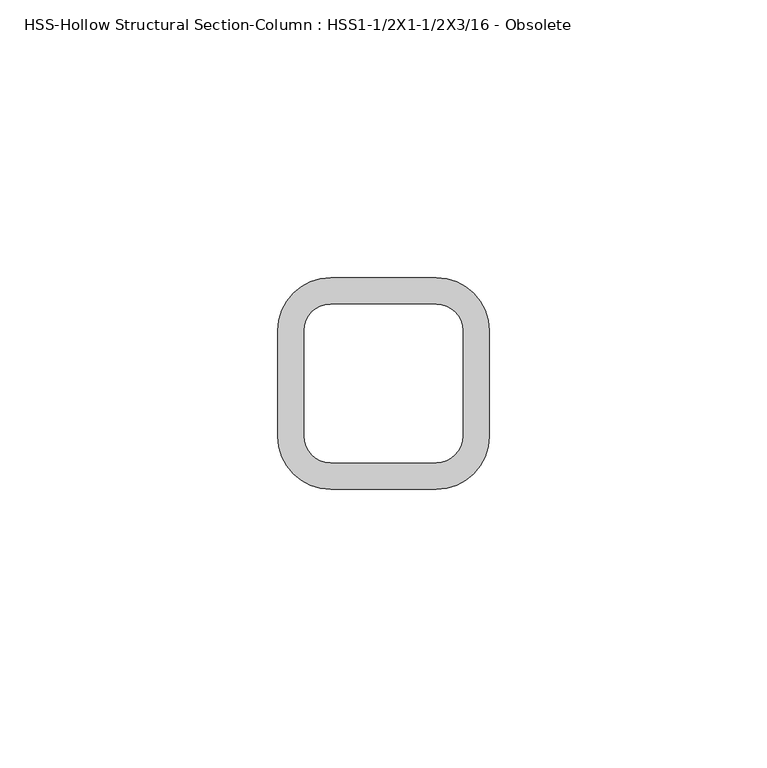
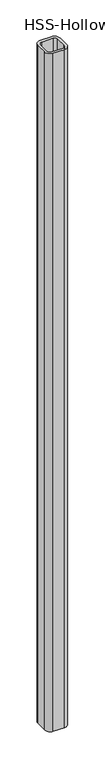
"""IFC4 building model written with IfcOpenShell, lengths in millimetres: column geometry, HSS-Hollow Structural Section-Column : HSS1-1/2X1-1/2X3/16 - Obsolete."""

from ifc_helpers import new_model, si_unit, point, frame_2d, origin, origin_with_axes, place, context, project, spatial, polyline, circle_curve, trimmed, segment, composite_curve, outline, extrude, source, transform, mapped, element, save


def hss_hollow_structural_section_column_hss1_1_2x1_1_2x3_16_b4625a5d(model_context):
    return source(origin(), model_context, "Body", "SweptSolid", [
        extrude(outline(composite_curve([segment(trimmed(circle_curve(frame_2d((9.525, 9.525)), 9.525), [point((9.525, 19.05))], [point((19.05, 9.525))], False, "CARTESIAN"), True, "CONTINUOUS"), segment(polyline([(19.05, 9.525), (19.05, -9.525)]), True, "CONTINUOUS"), segment(trimmed(circle_curve(frame_2d((9.525, -9.525)), 9.525), [point((19.05, -9.525))], [point((9.525, -19.05))], False, "CARTESIAN"), True, "CONTINUOUS"), segment(polyline([(9.525, -19.05), (-9.525, -19.05)]), True, "CONTINUOUS"), segment(trimmed(circle_curve(frame_2d((-9.525, -9.525)), 9.525), [point((-9.525, -19.05))], [point((-19.05, -9.525))], False, "CARTESIAN"), True, "CONTINUOUS"), segment(polyline([(-19.05, -9.525), (-19.05, 9.525)]), True, "CONTINUOUS"), segment(trimmed(circle_curve(frame_2d((-9.525, 9.525)), 9.525), [point((-19.05, 9.525))], [point((-9.525, 19.05))], False, "CARTESIAN"), True, "CONTINUOUS"), segment(polyline([(-9.525, 19.05), (9.525, 19.05)]), True, "CONTINUOUS")], self_intersect=False), holes=[composite_curve([segment(polyline([(9.525, 14.2875), (-9.525, 14.2875)]), True, "CONTINUOUS"), segment(trimmed(circle_curve(frame_2d((-9.525, 9.525)), 4.7625), [point((-9.525, 14.2875))], [point((-14.2875, 9.525))], True, "CARTESIAN"), True, "CONTINUOUS"), segment(polyline([(-14.2875, 9.525), (-14.2875, -9.525)]), True, "CONTINUOUS"), segment(trimmed(circle_curve(frame_2d((-9.525, -9.525)), 4.7625), [point((-14.2875, -9.525))], [point((-9.525, -14.2875))], True, "CARTESIAN"), True, "CONTINUOUS"), segment(polyline([(-9.525, -14.2875), (9.525, -14.2875)]), True, "CONTINUOUS"), segment(trimmed(circle_curve(frame_2d((9.525, -9.525)), 4.7625), [point((9.525, -14.2875))], [point((14.2875, -9.525))], True, "CARTESIAN"), True, "CONTINUOUS"), segment(polyline([(14.2875, -9.525), (14.2875, 9.525)]), True, "CONTINUOUS"), segment(trimmed(circle_curve(frame_2d((9.525, 9.525)), 4.7625), [point((14.2875, 9.525))], [point((9.525, 14.2875))], True, "CARTESIAN"), True, "CONTINUOUS")], self_intersect=False)]), origin_with_axes(), (0.0, 0.0, 1.0), 1219.2),
    ])


if __name__ == "__main__":
    model = new_model("IFC4")
    model_context = context("Model", 3, world=origin())
    ifc_project = project(units=[si_unit("LENGTHUNIT", "METRE", prefix="MILLI")], contexts=[model_context])
    site = spatial("IfcSite", under=ifc_project)
    building = spatial("IfcBuilding", under=site)
    placement = place(None, origin())
    hss_hollow_structural_section_column_hss1_1_2x1_1_2x3_16_shape = hss_hollow_structural_section_column_hss1_1_2x1_1_2x3_16_b4625a5d(model_context)
    element("IfcColumn", 1, ObjectType="HSS-Hollow Structural Section-Column : HSS1-1/2X1-1/2X3/16 - Obsolete", at=placement, inside=building, context=model_context, shape_type="MappedRepresentation", body=[
        mapped(hss_hollow_structural_section_column_hss1_1_2x1_1_2x3_16_shape, transform((0.0, 0.0, 0.0), x_axis=(1.0, 0.0, 0.0), y_axis=(0.0, 1.0, 0.0), z_axis=(0.0, 0.0, 1.0))),
    ])
    save(model, "model.ifc")
